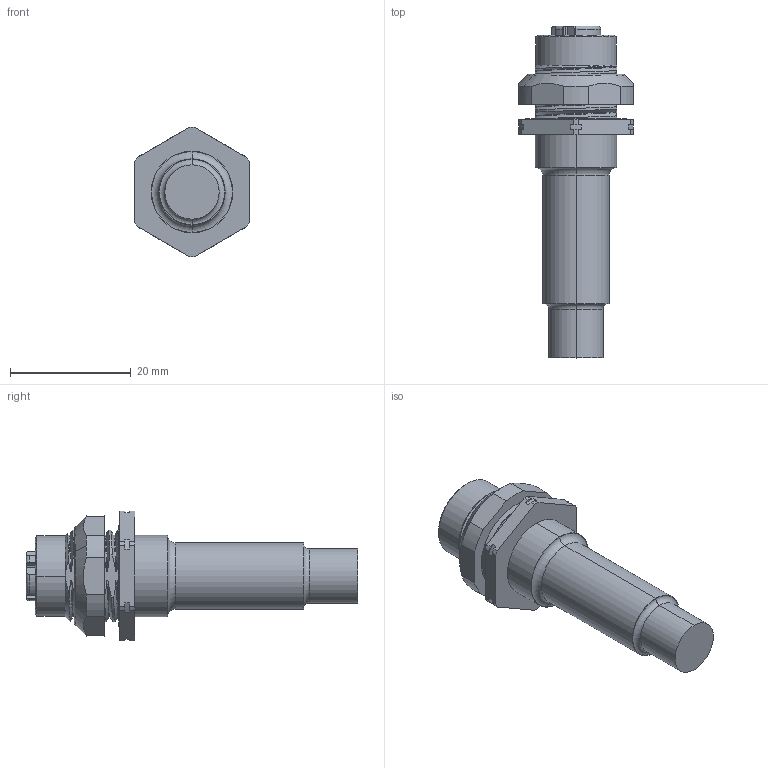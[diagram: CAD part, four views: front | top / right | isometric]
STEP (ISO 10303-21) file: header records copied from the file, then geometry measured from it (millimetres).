
FILE_DESCRIPTION (( 'STEP AP203' ), '1' );
FILE_NAME ('FKFDD-Overmold.step', '2021-07-13T17:46:23', ( '' ), ( '' ), 'SwSTEP 2.0', 'SolidWorks 2019', '' );
FILE_SCHEMA (( 'CONFIG_CONTROL_DESIGN' ));
Length unit declared in the file: millimetre
Products named in the file (1): FKFDD-Overmold
Bounding box: 19 x 55 x 21.5 mm (x, y, z)
Volume: 6877.5 mm3; surface area: 5861.4 mm2
Topology: 6 solids, 6 shells, 501 faces, 1372 edges, 900 vertices
Faces by surface type: cylinder 265, plane 114, cone 55, bspline 40, torus 27
Entity records: 31408 total; most frequent: CARTESIAN_POINT 18470, DIRECTION 2822, ORIENTED_EDGE 2744, EDGE_CURVE 1372, AXIS2_PLACEMENT_3D 1152, VERTEX_POINT 900, CIRCLE 690, EDGE_LOOP 532
